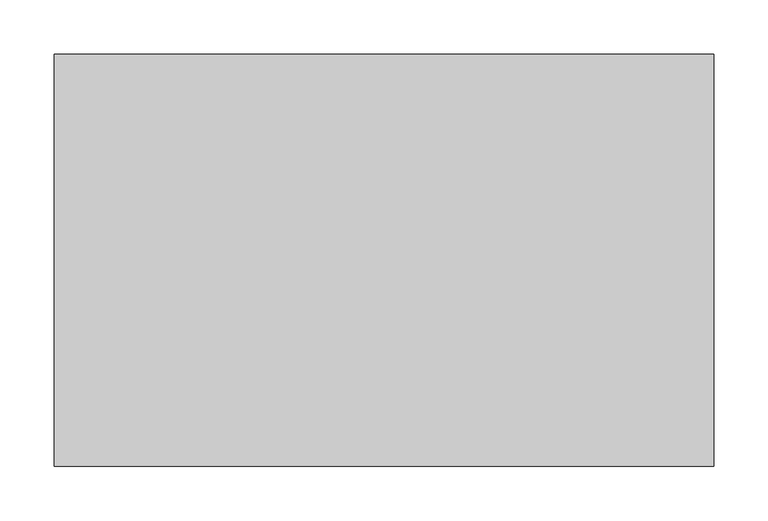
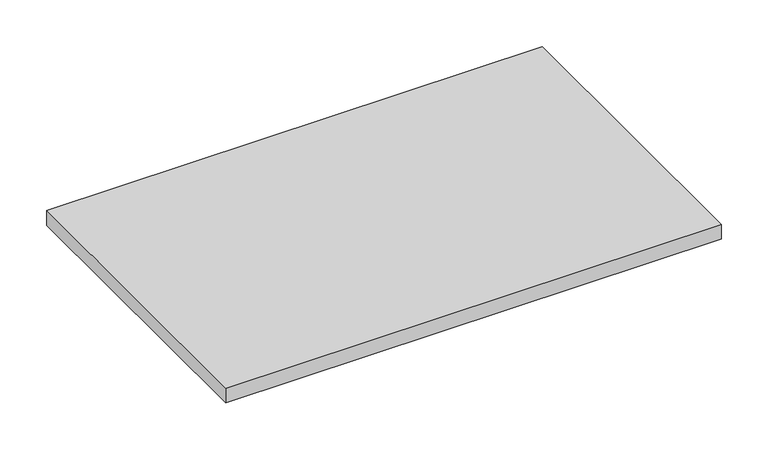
"""IFC4 building model written with IfcOpenShell, lengths in millimetres: furniture geometry, Steelcase - Universal Storage - Adjustable Steel Standard Shelf : 15D x 24W."""

from ifc_helpers import new_model, si_unit, frame, origin, place, context, project, spatial, polyline, outline, extrude, source, transform, mapped, element, save


def furniture_f6a7cc67(model_context):
    return source(origin(), model_context, "Body", "SweptSolid", [
        extrude(outline(polyline([(609.6, 0.0), (609.6, -381.0), (0.0, -381.0), (0.0, 0.0), (609.6, 0.0)])), frame((0.0, 0.0, 285.75), z_axis=(0.0, 0.0, 1.0), x_axis=(1.0, 0.0, 0.0)), (0.0, 0.0, 1.0), 19.05),
    ])


if __name__ == "__main__":
    model = new_model("IFC4")
    model_context = context("Model", 3, world=origin())
    ifc_project = project(units=[si_unit("LENGTHUNIT", "METRE", prefix="MILLI")], contexts=[model_context])
    site = spatial("IfcSite", under=ifc_project)
    building = spatial("IfcBuilding", under=site)
    placement = place(None, origin())
    furniture_shape = furniture_f6a7cc67(model_context)
    element("IfcFurniture", 1, ObjectType="Steelcase - Universal Storage - Adjustable Steel Standard Shelf : 15D x 24W", at=placement, inside=building, context=model_context, shape_type="MappedRepresentation", body=[
        mapped(furniture_shape, transform((0.0, 0.0, 0.0), x_axis=(1.0, 0.0, 0.0), y_axis=(0.0, 1.0, 0.0), z_axis=(0.0, 0.0, 1.0))),
    ])
    save(model, "model.ifc")
